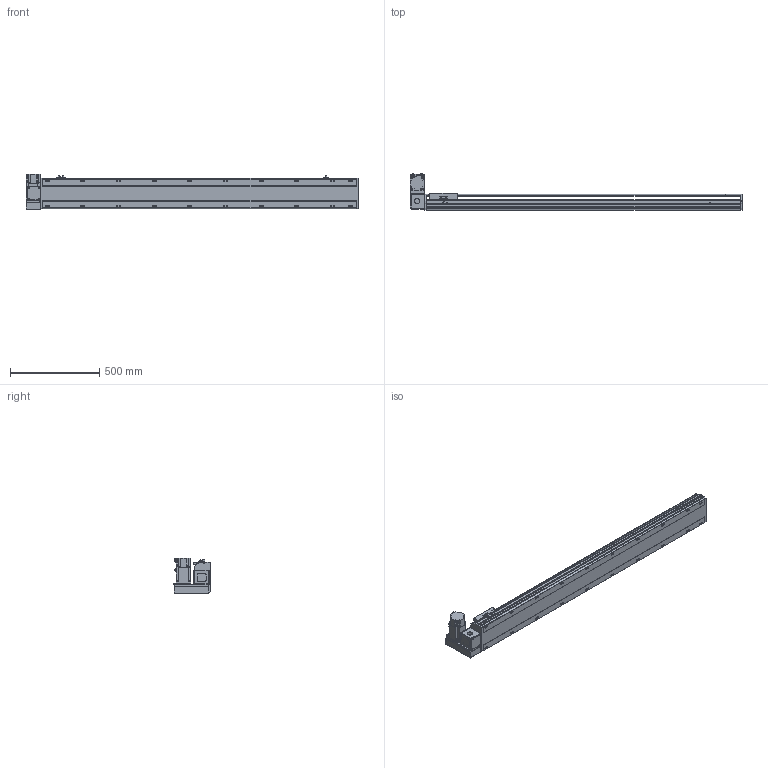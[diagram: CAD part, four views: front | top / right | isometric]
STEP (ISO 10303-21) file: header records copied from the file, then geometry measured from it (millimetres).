
FILE_DESCRIPTION( ( 'STEP AP214' ), '1' );
FILE_NAME( 'x:/temp/worker_3/temp/exporttempdir_5412_26_ax9Bd/format_0/PBS170-P40-S1500-LU-T75-C1-N(0).stp', '2022-06-07T08:16:01', ( 'License CC BY-ND 4.0' ), ( 'CADENAS' ), ' ', 'PARTsolutions', ' ' );
FILE_SCHEMA( ( 'AUTOMOTIVE_DESIGN { 1 0 10303 214 1 1 1 1 }' ) );
Length unit declared in the file: millimetre
Products named in the file (7): PBS170-P40-S1500-LU-T75-C1-N(0); _PBS170-S1500()_body; _PBS170T-LU_motors; _T75-p1; _PBS170_sliser; _PBS170_plant; _PBS170_sensor
Assembly tree (8 placements, depth 2):
  PBS170-P40-S1500-LU-T75-C1-N(0)
    _PBS170-S1500()_body
    _PBS170T-LU_motors
    _T75-p1
    _PBS170_sliser
    _PBS170_plant
    _PBS170_sensor  x3
Bounding box: 1863 x 206 x 197.3 mm (x, y, z)
Volume: 14551993.5 mm3; surface area: 1870427.2 mm2
Topology: 8 solids, 8 shells, 1114 faces, 2955 edges, 1926 vertices
Faces by surface type: plane 699, cylinder 355, cone 50, sphere 8, torus 2
Full cylindrical faces by diameter (mm): 3.242 x4, 4 x2, 4.4 x4, 4.5 x6, 4.917 x4, 6 x9, 6.647 x28, 7 x2, 7.5 x4, 8 x8, 8.5 x20, 10 x4, 10.5 x20, 11 x2, 30 x2, 40 x1, 70 x1
Entity records: 41024 total; most frequent: CARTESIAN_POINT 6557, DIRECTION 5440, ORIENTED_EDGE 5148, EDGE_CURVE 2574, AXIS2_PLACEMENT_3D 1897, VERTEX_POINT 1778, LINE 1646, VECTOR 1646
